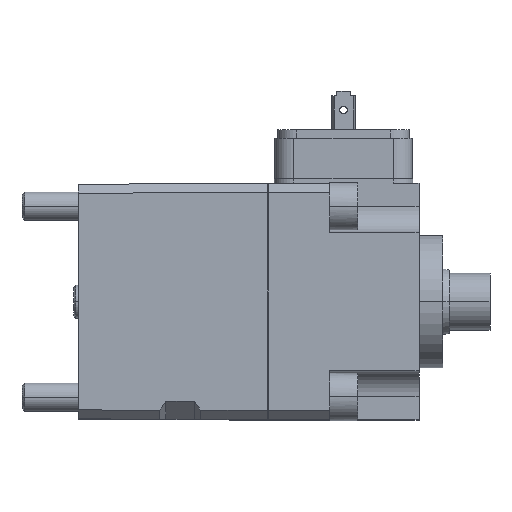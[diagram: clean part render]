
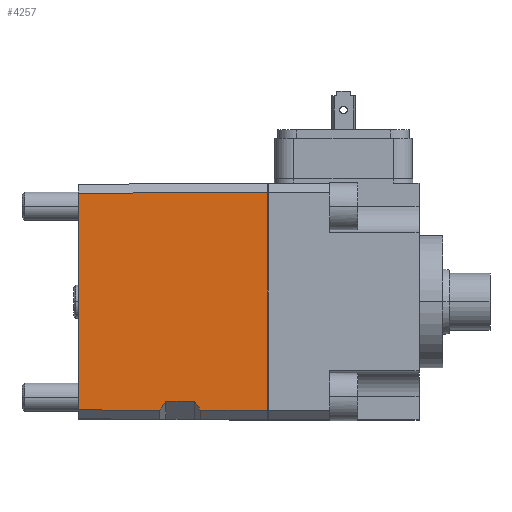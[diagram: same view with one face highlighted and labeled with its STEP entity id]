
A CAD part, top view. The second image highlights one B-rep face of the part: STEP entity #4257.
In plain terms, the highlighted planar face has unit normal (-0.005, 0, 1).
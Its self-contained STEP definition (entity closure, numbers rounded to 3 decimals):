
#88 = VECTOR ( 'NONE', #3874, 1000. ) ;
#97 = VECTOR ( 'NONE', #7815, 1000. ) ;
#172 = DIRECTION ( 'NONE',  ( 1., 0., 0.005 ) ) ;
#264 = VERTEX_POINT ( 'NONE', #3996 ) ;
#344 = CARTESIAN_POINT ( 'NONE',  ( 20., 23., 24.994 ) ) ;
#520 = ORIENTED_EDGE ( 'NONE', *, *, #10379, .F. ) ;
#619 = CARTESIAN_POINT ( 'NONE',  ( 20., -22.998, 24.994 ) ) ;
#637 = ORIENTED_EDGE ( 'NONE', *, *, #2464, .T. ) ;
#965 = VECTOR ( 'NONE', #4984, 1000. ) ;
#1268 = CARTESIAN_POINT ( 'NONE',  ( -20., 23., 24.785 ) ) ;
#1573 = LINE ( 'NONE', #1268, #11279 ) ;
#1771 = EDGE_CURVE ( 'NONE', #4413, #264, #1573, .T. ) ;
#1782 = DIRECTION ( 'NONE',  ( 0.579, -0.815, 0.003 ) ) ;
#2016 = CARTESIAN_POINT ( 'NONE',  ( 21.1, 23., 25. ) ) ;
#2129 = EDGE_CURVE ( 'NONE', #7748, #9397, #11715, .T. ) ;
#2134 = EDGE_CURVE ( 'NONE', #2836, #9397, #10389, .T. ) ;
#2221 = CARTESIAN_POINT ( 'NONE',  ( 21., -23., 24.999 ) ) ;
#2225 = CARTESIAN_POINT ( 'NONE',  ( 26.763, 19.011, 25.03 ) ) ;
#2272 = CARTESIAN_POINT ( 'NONE',  ( 5.842, -22.967, 24.92 ) ) ;
#2464 = EDGE_CURVE ( 'NONE', #11635, #7748, #11118, .T. ) ;
#2776 = CARTESIAN_POINT ( 'NONE',  ( -10.742, 0.4, 24.833 ) ) ;
#2836 = VERTEX_POINT ( 'NONE', #3407 ) ;
#2974 = VERTEX_POINT ( 'NONE', #8496 ) ;
#3044 = EDGE_LOOP ( 'NONE', ( #5645, #6056, #4936, #520, #7421, #637, #7110, #8022 ) ) ;
#3105 = CARTESIAN_POINT ( 'NONE',  ( 21., -23., 24.999 ) ) ;
#3139 = VECTOR ( 'NONE', #1782, 1000. ) ;
#3373 = AXIS2_PLACEMENT_3D ( 'NONE', #2016, #5771, #172 ) ;
#3395 = FACE_OUTER_BOUND ( 'NONE', #3044, .T. ) ;
#3407 = CARTESIAN_POINT ( 'NONE',  ( 20., 22.998, 24.994 ) ) ;
#3781 = EDGE_CURVE ( 'NONE', #4413, #2974, #11666, .T. ) ;
#3799 = CARTESIAN_POINT ( 'NONE',  ( 21.33, -20.987, 25.001 ) ) ;
#3871 = LINE ( 'NONE', #3799, #88 ) ;
#3874 = DIRECTION ( 'NONE',  ( 1., 0.005, 0.005 ) ) ;
#3996 = CARTESIAN_POINT ( 'NONE',  ( -20., 22.911, 24.785 ) ) ;
#4171 = DIRECTION ( 'NONE',  ( 1., -0.002, 0.005 ) ) ;
#4257 = ADVANCED_FACE ( 'NONE', ( #3395 ), #4776, .T. ) ;
#4413 = VERTEX_POINT ( 'NONE', #7511 ) ;
#4700 = VECTOR ( 'NONE', #7337, 1000. ) ;
#4776 = PLANE ( 'NONE',  #3373 ) ;
#4909 = VERTEX_POINT ( 'NONE', #7293 ) ;
#4936 = ORIENTED_EDGE ( 'NONE', *, *, #3781, .T. ) ;
#4984 = DIRECTION ( 'NONE',  ( -0.576, -0.817, -0.003 ) ) ;
#5038 = CARTESIAN_POINT ( 'NONE',  ( 4.5, -21.075, 24.913 ) ) ;
#5054 = VECTOR ( 'NONE', #8672, 1000. ) ;
#5506 = LINE ( 'NONE', #2225, #965 ) ;
#5618 = VECTOR ( 'NONE', #4171, 1000. ) ;
#5637 = CARTESIAN_POINT ( 'NONE',  ( 21.094, 23., 25. ) ) ;
#5645 = ORIENTED_EDGE ( 'NONE', *, *, #7584, .F. ) ;
#5771 = DIRECTION ( 'NONE',  ( -0.005, 0., 1. ) ) ;
#6056 = ORIENTED_EDGE ( 'NONE', *, *, #1771, .F. ) ;
#7110 = ORIENTED_EDGE ( 'NONE', *, *, #2129, .T. ) ;
#7293 = CARTESIAN_POINT ( 'NONE',  ( -1.5, -21.107, 24.882 ) ) ;
#7337 = DIRECTION ( 'NONE',  ( 1., 0.002, 0.005 ) ) ;
#7421 = ORIENTED_EDGE ( 'NONE', *, *, #10889, .T. ) ;
#7511 = CARTESIAN_POINT ( 'NONE',  ( -20., -22.911, 24.785 ) ) ;
#7584 = EDGE_CURVE ( 'NONE', #264, #2836, #9425, .T. ) ;
#7748 = VERTEX_POINT ( 'NONE', #2272 ) ;
#7815 = DIRECTION ( 'NONE',  ( 0., -1., 0. ) ) ;
#8022 = ORIENTED_EDGE ( 'NONE', *, *, #2134, .F. ) ;
#8496 = CARTESIAN_POINT ( 'NONE',  ( -2.797, -22.948, 24.875 ) ) ;
#8672 = DIRECTION ( 'NONE',  ( 1., -0.002, 0.005 ) ) ;
#9397 = VERTEX_POINT ( 'NONE', #619 ) ;
#9425 = LINE ( 'NONE', #5637, #4700 ) ;
#10379 = EDGE_CURVE ( 'NONE', #4909, #2974, #5506, .T. ) ;
#10389 = LINE ( 'NONE', #344, #97 ) ;
#10689 = DIRECTION ( 'NONE',  ( 0., 1., 0. ) ) ;
#10889 = EDGE_CURVE ( 'NONE', #4909, #11635, #3871, .T. ) ;
#11118 = LINE ( 'NONE', #2776, #3139 ) ;
#11279 = VECTOR ( 'NONE', #10689, 1000. ) ;
#11635 = VERTEX_POINT ( 'NONE', #5038 ) ;
#11666 = LINE ( 'NONE', #3105, #5618 ) ;
#11715 = LINE ( 'NONE', #2221, #5054 ) ;
